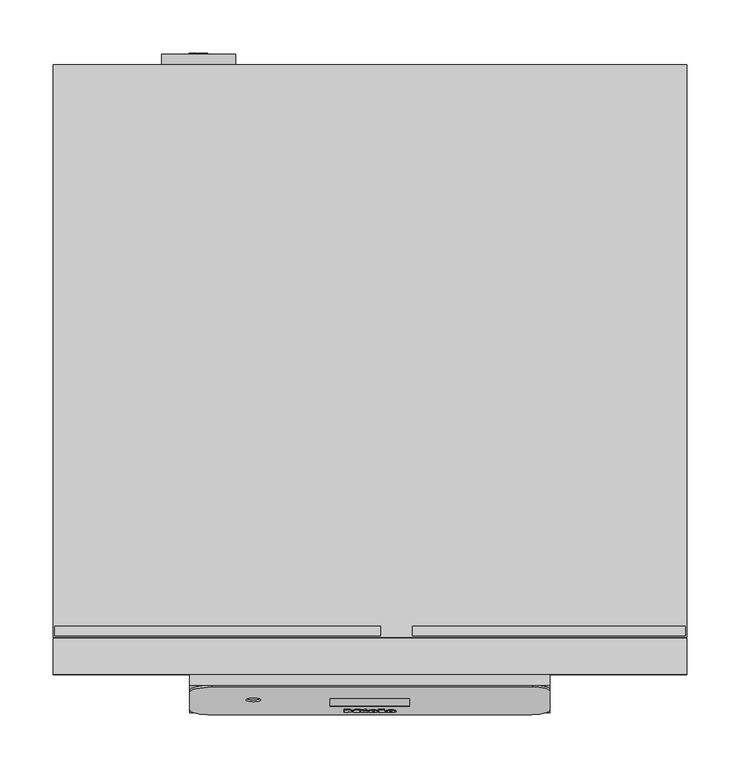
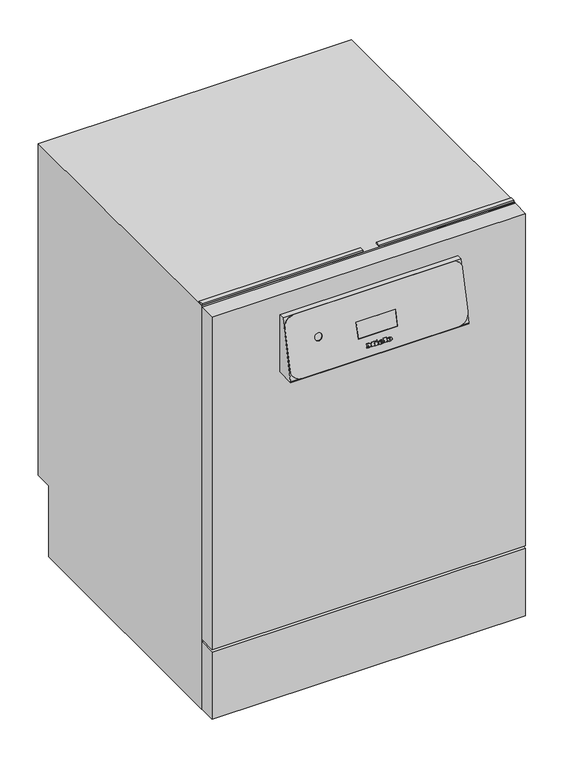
"""IFC4 building model written with IfcOpenShell, lengths in millimetres: proxy geometry, 12065630_NWE_PFD401UDOS_SST : 61040185_NWE_12065630_PFD401UDOS_SST."""

from ifc_helpers import new_model, si_unit, point, frame, frame_2d, origin, origin_with_axes, place, context, project, spatial, polyline, circle_curve, ellipse_curve, trimmed, segment, composite_curve, outline, extrude, source, transform, mapped, element, save
from ifc_brep_helpers import plane_surface, cylinder_surface, revolved_surface, extruded_surface, advanced_brep


def specialty_equipment_58bb6e74(model_context):
    return source(origin(), model_context, "Body", "SolidModel", [
        advanced_brep(
        [(19.2098411, -35.3170778, 679.7116041), (19.2098411, -35.1353173, 680.4988951), (24.5618411, -35.1353173, 680.4988951), (15.2498411, -35.1353173, 680.4988951), (17.4498411, -35.743585, 677.8641985), (24.4258411, -35.3170778, 679.7116041), (22.0098411, -35.3170778, 679.7116041), (20.1058411, -35.5186339, 678.8385685), (19.2098411, -34.9049675, 681.4966501), (19.2098411, -34.7088101, 682.3463008), (20.5778411, -34.7088101, 682.3463008), (20.5778411, -34.9049675, 681.4966501), (19.2098411, -34.3427077, 679.4866531), (20.1058411, -34.5442639, 678.6136175), (22.0098411, -34.3427077, 679.4866531), (24.4258411, -34.3427077, 679.4866531), (17.4498411, -34.7692149, 677.6392474), (15.2498411, -34.1609473, 680.2739441), (24.5618411, -34.1609473, 680.2739441), (19.2098411, -34.1609473, 680.2739441), (19.2098411, -33.9305974, 681.271699), (20.5778411, -33.9305974, 681.271699), (20.5778411, -33.7344401, 682.1213497), (19.2098411, -33.7344401, 682.1213497)],
        [
            (0, 1),
            (1, 2),
            (2, 3, ellipse_curve(frame((19.9058411, -35.1353173, 680.4988951), z_axis=(0.0, -0.9743700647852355, 0.22495105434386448), x_axis=(-1.0, 0.0, 0.0)), 4.656, 3.848)),
            (3, 4, circle_curve(frame((18.3458847, -35.0741307, 680.7639238), z_axis=(0.0, -0.9743700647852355, 0.22495105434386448), x_axis=(0.0, -0.22495105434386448, -0.9743700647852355)), 3.1079688)),
            (4, 5, circle_curve(frame((19.8126347, -34.599034, 682.8217934), z_axis=(0.0, -0.9743700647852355, 0.22495105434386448), x_axis=(0.0, -0.22495105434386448, -0.9743700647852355)), 5.6098607)),
            (5, 6),
            (6, 7, circle_curve(frame((20.4968999, -35.1497142, 680.4365354), z_axis=(0.0, 0.9743700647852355, -0.22495105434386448), x_axis=(0.0, -0.22495105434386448, -0.9743700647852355)), 1.6859795)),
            (7, 0, circle_curve(frame((20.1058411, -35.3170778, 679.7116041), z_axis=(0.0, 0.9743700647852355, -0.22495105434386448), x_axis=(0.0, -0.22495105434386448, -0.9743700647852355)), 0.896)),
            (8, 9),
            (9, 10, circle_curve(frame((19.8938411, -34.7088101, 682.3463008), z_axis=(0.0, 0.9743700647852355, -0.22495105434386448), x_axis=(0.0, -0.22495105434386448, -0.9743700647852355)), 0.684)),
            (10, 11),
            (11, 8),
            (12, 13, circle_curve(frame((20.1058411, -34.3427077, 679.4866531), z_axis=(0.0, -0.9743700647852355, 0.22495105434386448), x_axis=(0.0, -0.22495105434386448, -0.9743700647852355)), 0.896)),
            (13, 14, circle_curve(frame((20.4968999, -34.1753441, 680.2115844), z_axis=(0.0, -0.9743700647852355, 0.22495105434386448), x_axis=(0.0, -0.22495105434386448, -0.9743700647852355)), 1.6859795)),
            (14, 15),
            (15, 16, circle_curve(frame((19.8126347, -33.624664, 682.5968423), z_axis=(0.0, 0.9743700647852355, -0.22495105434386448), x_axis=(0.0, -0.22495105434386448, -0.9743700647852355)), 5.6098607)),
            (16, 17, circle_curve(frame((18.3458847, -34.0997606, 680.5389727), z_axis=(0.0, 0.9743700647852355, -0.22495105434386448), x_axis=(0.0, -0.22495105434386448, -0.9743700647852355)), 3.1079688)),
            (17, 18, ellipse_curve(frame((19.9058411, -34.1609473, 680.2739441), z_axis=(0.0, 0.9743700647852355, -0.22495105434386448), x_axis=(-1.0, 0.0, 0.0)), 4.656, 3.848)),
            (18, 19),
            (19, 12),
            (20, 21),
            (21, 22),
            (22, 23, circle_curve(frame((19.8938411, -33.7344401, 682.1213497), z_axis=(0.0, -0.9743700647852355, 0.22495105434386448), x_axis=(0.0, -0.22495105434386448, -0.9743700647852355)), 0.684)),
            (23, 20),
            (0, 12),
            (19, 1),
            (18, 2),
            (5, 15),
            (14, 6),
            (17, 3),
            (13, 7),
            (16, 4),
            (8, 20),
            (23, 9),
            (22, 10),
            (21, 11),
        ],
        [
            plane_surface(frame((19.2098411, -35.1353173, 680.4988951), z_axis=(0.0, -0.9743700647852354, 0.22495105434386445), x_axis=(0.0, 0.22495105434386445, 0.9743700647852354))),
            plane_surface(frame((19.2098411, -34.1609473, 680.2739441), z_axis=(0.0, 0.9743700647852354, -0.22495105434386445), x_axis=(0.0, -0.22495105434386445, -0.9743700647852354))),
            plane_surface(frame((19.2098411, -35.3170778, 679.7116041), z_axis=(1.0, 0.0, 0.0), x_axis=(0.0, 0.9743700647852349, -0.22495105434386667))),
            plane_surface(frame((19.2098411, -35.1353173, 680.4988951), z_axis=(0.0, -0.22495105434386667, -0.9743700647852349), x_axis=(0.0, 0.9743700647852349, -0.22495105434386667))),
            plane_surface(frame((24.4258411, -35.3170778, 679.7116041), z_axis=(0.0, 0.22495105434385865, 0.9743700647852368), x_axis=(0.0, 0.9743700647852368, -0.22495105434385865))),
            extruded_surface(trimmed(ellipse_curve(frame((19.9058411, -33.1865772, 680.048993), z_axis=(0.0, -0.9743700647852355, 0.22495105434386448), x_axis=(-1.0, 0.0, 0.0)), 4.656, 3.848), [point((24.5618411, -33.1865772, 680.048993))], [point((15.2498411, -33.1865772, 680.048993))], True, "CARTESIAN"), (0.0, -0.9743700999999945, 0.2249510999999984), 1.0000000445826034),
            revolved_surface(polyline([(20.4968999, -34.55460696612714, 678.5688164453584), (20.4968999, -35.52897707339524, 678.7937675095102)]), (20.4968999, -34.1753441, 680.2115844), (0.0, 0.9743700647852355, -0.22495105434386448)),
            revolved_surface(polyline([(20.1058411, -34.544263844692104, 678.6136175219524), (20.1058411, -35.51863393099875, 678.8385685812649)]), (20.1058411, -34.3427077, 679.4866531), (0.0, 0.9743700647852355, -0.22495105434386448)),
            cylinder_surface(frame((18.3458847, -34.0997606, 680.5389727), z_axis=(0.0, -0.9743700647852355, 0.22495105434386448), x_axis=(0.0, -0.22495105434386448, -0.9743700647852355)), 3.1079688),
            cylinder_surface(frame((19.8126347, -33.624664, 682.5968423), z_axis=(0.0, -0.9743700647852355, 0.22495105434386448), x_axis=(0.0, -0.22495105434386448, -0.9743700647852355)), 5.6098607),
            plane_surface(frame((19.2098411, -34.9049675, 681.4966501), z_axis=(1.0, 0.0, 0.0), x_axis=(0.0, 0.9743700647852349, -0.22495105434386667))),
            revolved_surface(polyline([(19.8938411, -33.8883066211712, 681.4548805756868), (19.8938411, -34.8626766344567, 681.6798316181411)]), (19.8938411, -33.7344401, 682.1213497), (0.0, 0.9743700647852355, -0.22495105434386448)),
            plane_surface(frame((20.5778411, -34.7088101, 682.3463008), z_axis=(-1.0, 0.0, 0.0), x_axis=(0.0, 0.9743700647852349, -0.22495105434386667))),
            plane_surface(frame((20.5778411, -34.9049675, 681.4966501), z_axis=(0.0, 0.22495105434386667, 0.9743700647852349), x_axis=(0.0, 0.9743700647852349, -0.22495105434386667))),
        ],
        [
            (0, [[1, 2, 3, 4, 5, 6, 7, 8], [9, 10, 11, 12]]),
            (1, [[13, 14, 15, 16, 17, 18, 19, 20], [21, 22, 23, 24]]),
            (2, [[-1, 25, -20, 26]]),
            (3, [[-2, -26, -19, 27]]),
            (4, [[-6, 28, -15, 29]]),
            (5, [[-3, -27, -18, 30]]),
            (6, [[-7, -29, -14, 31]]),
            (7, [[-8, -31, -13, -25]]),
            (8, [[-4, -30, -17, 32]]),
            (9, [[-5, -32, -16, -28]]),
            (10, [[-9, 33, -24, 34]]),
            (11, [[-10, -34, -23, 35]]),
            (12, [[-11, -35, -22, 36]]),
            (13, [[-12, -36, -21, -33]]),
        ],
    ),
        advanced_brep(
        [(2.5138411, -35.3170778, 679.7116041), (2.5138411, -35.1353173, 680.4988951), (7.8658411, -35.1353173, 680.4988951), (-1.4461589, -35.1353173, 680.4988951), (0.7538411, -35.743585, 677.8641985), (7.7298411, -35.3170778, 679.7116041), (5.3138411, -35.3170778, 679.7116041), (3.4098411, -35.5186339, 678.8385685), (2.5138411, -34.9049675, 681.4966501), (2.5138411, -34.7088101, 682.3463008), (3.8818411, -34.7088101, 682.3463008), (3.8818411, -34.9049675, 681.4966501), (2.5138411, -34.3427077, 679.4866531), (3.4098411, -34.5442639, 678.6136175), (5.3138411, -34.3427077, 679.4866531), (7.7298411, -34.3427077, 679.4866531), (0.7538411, -34.7692149, 677.6392474), (-1.4461589, -34.1609473, 680.2739441), (7.8658411, -34.1609473, 680.2739441), (2.5138411, -34.1609473, 680.2739441), (2.5138411, -33.9305974, 681.271699), (3.8818411, -33.9305974, 681.271699), (3.8818411, -33.7344401, 682.1213497), (2.5138411, -33.7344401, 682.1213497)],
        [
            (0, 1),
            (1, 2),
            (2, 3, ellipse_curve(frame((3.2098411, -35.1353173, 680.4988951), z_axis=(0.0, -0.9743700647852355, 0.22495105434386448), x_axis=(-1.0, 0.0, 0.0)), 4.656, 3.848)),
            (3, 4, circle_curve(frame((1.6498847, -35.0741307, 680.7639238), z_axis=(0.0, -0.9743700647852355, 0.22495105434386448), x_axis=(0.0, -0.22495105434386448, -0.9743700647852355)), 3.1079688)),
            (4, 5, circle_curve(frame((3.1166347, -34.599034, 682.8217934), z_axis=(0.0, -0.9743700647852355, 0.22495105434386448), x_axis=(0.0, -0.22495105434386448, -0.9743700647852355)), 5.6098607)),
            (5, 6),
            (6, 7, circle_curve(frame((3.8008999, -35.1497142, 680.4365354), z_axis=(0.0, 0.9743700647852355, -0.22495105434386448), x_axis=(0.0, -0.22495105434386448, -0.9743700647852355)), 1.6859795)),
            (7, 0, circle_curve(frame((3.4098411, -35.3170778, 679.7116041), z_axis=(0.0, 0.9743700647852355, -0.22495105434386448), x_axis=(0.0, -0.22495105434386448, -0.9743700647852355)), 0.896)),
            (8, 9),
            (9, 10, circle_curve(frame((3.1978411, -34.7088101, 682.3463008), z_axis=(0.0, 0.9743700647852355, -0.22495105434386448), x_axis=(0.0, -0.22495105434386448, -0.9743700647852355)), 0.684)),
            (10, 11),
            (11, 8),
            (12, 13, circle_curve(frame((3.4098411, -34.3427077, 679.4866531), z_axis=(0.0, -0.9743700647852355, 0.22495105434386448), x_axis=(0.0, -0.22495105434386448, -0.9743700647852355)), 0.896)),
            (13, 14, circle_curve(frame((3.8008999, -34.1753441, 680.2115844), z_axis=(0.0, -0.9743700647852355, 0.22495105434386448), x_axis=(0.0, -0.22495105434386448, -0.9743700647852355)), 1.6859795)),
            (14, 15),
            (15, 16, circle_curve(frame((3.1166347, -33.624664, 682.5968423), z_axis=(0.0, 0.9743700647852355, -0.22495105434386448), x_axis=(0.0, -0.22495105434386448, -0.9743700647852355)), 5.6098607)),
            (16, 17, circle_curve(frame((1.6498847, -34.0997606, 680.5389727), z_axis=(0.0, 0.9743700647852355, -0.22495105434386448), x_axis=(0.0, -0.22495105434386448, -0.9743700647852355)), 3.1079688)),
            (17, 18, ellipse_curve(frame((3.2098411, -34.1609473, 680.2739441), z_axis=(0.0, 0.9743700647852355, -0.22495105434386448), x_axis=(-1.0, 0.0, 0.0)), 4.656, 3.848)),
            (18, 19),
            (19, 12),
            (20, 21),
            (21, 22),
            (22, 23, circle_curve(frame((3.1978411, -33.7344401, 682.1213497), z_axis=(0.0, -0.9743700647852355, 0.22495105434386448), x_axis=(0.0, -0.22495105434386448, -0.9743700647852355)), 0.684)),
            (23, 20),
            (0, 12),
            (19, 1),
            (18, 2),
            (5, 15),
            (14, 6),
            (17, 3),
            (13, 7),
            (16, 4),
            (8, 20),
            (23, 9),
            (22, 10),
            (21, 11),
        ],
        [
            plane_surface(frame((2.5138411, -35.1353173, 680.4988951), z_axis=(0.0, -0.9743700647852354, 0.22495105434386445), x_axis=(0.0, 0.22495105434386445, 0.9743700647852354))),
            plane_surface(frame((2.5138411, -34.1609473, 680.2739441), z_axis=(0.0, 0.9743700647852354, -0.22495105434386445), x_axis=(0.0, -0.22495105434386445, -0.9743700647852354))),
            plane_surface(frame((2.5138411, -35.3170778, 679.7116041), z_axis=(1.0000000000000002, 0.0, 0.0), x_axis=(0.0, 0.9743700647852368, -0.22495105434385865))),
            plane_surface(frame((2.5138411, -35.1353173, 680.4988951), z_axis=(0.0, -0.22495105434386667, -0.9743700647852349), x_axis=(0.0, 0.9743700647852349, -0.22495105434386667))),
            plane_surface(frame((7.7298411, -35.3170778, 679.7116041), z_axis=(0.0, 0.22495105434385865, 0.9743700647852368), x_axis=(0.0, 0.9743700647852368, -0.22495105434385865))),
            extruded_surface(trimmed(ellipse_curve(frame((3.2098411, -33.1865772, 680.048993), z_axis=(0.0, -0.9743700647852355, 0.22495105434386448), x_axis=(-1.0, 0.0, 0.0)), 4.656, 3.848), [point((7.8658411, -33.1865772, 680.048993))], [point((-1.4461589, -33.1865772, 680.048993))], True, "CARTESIAN"), (0.0, -0.9743700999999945, 0.2249510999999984), 1.0000000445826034),
            revolved_surface(polyline([(3.8008999, -34.55460696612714, 678.5688164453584), (3.8008999, -35.52897707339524, 678.7937675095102)]), (3.8008999, -34.1753441, 680.2115844), (0.0, 0.9743700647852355, -0.22495105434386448)),
            revolved_surface(polyline([(3.4098411, -34.544263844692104, 678.6136175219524), (3.4098411, -35.51863393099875, 678.8385685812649)]), (3.4098411, -34.3427077, 679.4866531), (0.0, 0.9743700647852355, -0.22495105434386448)),
            cylinder_surface(frame((1.6498847, -34.0997606, 680.5389727), z_axis=(0.0, -0.9743700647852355, 0.22495105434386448), x_axis=(0.0, -0.22495105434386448, -0.9743700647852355)), 3.1079688),
            cylinder_surface(frame((3.1166347, -33.624664, 682.5968423), z_axis=(0.0, -0.9743700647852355, 0.22495105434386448), x_axis=(0.0, -0.22495105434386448, -0.9743700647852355)), 5.6098607),
            plane_surface(frame((2.5138411, -34.9049675, 681.4966501), z_axis=(1.0, 0.0, 0.0), x_axis=(0.0, 0.9743700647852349, -0.22495105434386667))),
            revolved_surface(polyline([(3.1978411, -33.8883066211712, 681.4548805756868), (3.1978411, -34.8626766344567, 681.6798316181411)]), (3.1978411, -33.7344401, 682.1213497), (0.0, 0.9743700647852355, -0.22495105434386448)),
            plane_surface(frame((3.8818411, -34.7088101, 682.3463008), z_axis=(-1.0, 0.0, 0.0), x_axis=(0.0, 0.9743700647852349, -0.22495105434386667))),
            plane_surface(frame((3.8818411, -34.9049675, 681.4966501), z_axis=(0.0, 0.22495105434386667, 0.9743700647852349), x_axis=(0.0, 0.9743700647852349, -0.22495105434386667))),
        ],
        [
            (0, [[1, 2, 3, 4, 5, 6, 7, 8], [9, 10, 11, 12]]),
            (1, [[13, 14, 15, 16, 17, 18, 19, 20], [21, 22, 23, 24]]),
            (2, [[-1, 25, -20, 26]]),
            (3, [[-2, -26, -19, 27]]),
            (4, [[-6, 28, -15, 29]]),
            (5, [[-3, -27, -18, 30]]),
            (6, [[-7, -29, -14, 31]]),
            (7, [[-8, -31, -13, -25]]),
            (8, [[-4, -30, -17, 32]]),
            (9, [[-5, -32, -16, -28]]),
            (10, [[-9, 33, -24, 34]]),
            (11, [[-10, -34, -23, 35]]),
            (12, [[-11, -35, -22, 36]]),
            (13, [[-12, -36, -21, -33]]),
        ],
    ),
        extrude(outline(polyline([(0.0, 0.0), (-0.0109087, -2.9993294), (-1.4390415, -2.9920868), (-1.4315307, 0.0), (0.0, 0.0)])), frame((-6.2301589, -33.0757834, 684.9743053), z_axis=(0.0, -0.9743700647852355, 0.2249510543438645), x_axis=(-0.42472021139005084, 0.20365373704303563, 0.8821212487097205)), (0.0, 0.0, 1.0), 1.0),
        extrude(outline(polyline([(-0.4933908, 2.4141097), (-2.7800844, -2.4601583), (-7.0459742, -0.4588767), (-7.4401146, -1.2990179), (-8.6568709, -0.728194), (-5.9760369, 4.9862153), (-4.7592806, 4.4153913), (-5.1636142, 3.5535222), (-2.1941493, 2.16044), (-1.7898157, 3.022309), (-0.4933908, 2.4141097)])), frame((-6.2301589, -33.0757834, 684.9743053), z_axis=(0.0, -0.9743700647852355, 0.2249510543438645), x_axis=(-0.42472021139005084, 0.20365373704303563, 0.8821212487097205)), (0.0, 0.0, 1.0), 1.0),
        extrude(outline(polyline([(0.0, 0.0), (0.0, -1.3039999), (-5.504, -1.3039999), (-5.504, 5.352), (-6.488, 5.352), (-6.488, 6.696), (0.0, 6.696), (0.0, 5.352), (-0.96, 5.352), (-0.96, 0.0), (0.0, 0.0)])), frame((8.3138411, -33.2629427, 684.1636294), z_axis=(0.0, -0.9743700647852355, 0.22495105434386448), x_axis=(-1.0, 0.0, 0.0)), (0.0, 0.0, 1.0), 1.0),
        extrude(outline(polyline([(0.0, 0.0), (0.0, -1.3039999), (-5.576, -1.3039999), (-7.92, 1.6960001), (-10.256, -1.3039999), (-15.128, -1.3039999), (-15.128, 0.0), (-14.112, 0.0), (-14.112, 5.352), (-15.128, 5.352), (-15.128, 6.696), (-8.744, 6.696), (-8.744, 5.352), (-9.728, 5.352), (-9.728, 1.8807777), (-6.136, 6.696), (-2.56, 1.9488752), (-2.56, 5.352), (-3.52, 5.352), (-3.52, 6.696), (0.0, 6.696), (0.0, 5.352), (-0.968, 5.352), (-0.968, 0.0), (0.0, 0.0)])), frame((-24.1501589, -33.2629427, 684.1636294), z_axis=(0.0, -0.9743700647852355, 0.22495105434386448), x_axis=(-1.0, 0.0, 0.0)), (0.0, 0.0, 1.0), 1.0),
        extrude(outline(polyline([(-0.1038681, 775.5857792), (-0.1038681, 660.0), (-36.1981904, 660.0), (-36.1981904, 662.5588517), (-10.1038681, 775.5857792), (-0.1038681, 775.5857792)])), frame((-169.8831565, 0.0, 0.0), z_axis=(1.0, 0.0, 0.0), x_axis=(0.0, 1.0, 0.0)), (0.0, 0.0, 1.0), 339.766313),
        extrude(outline(polyline([(299.0, 34.0), (299.0, 0.0), (-299.0, 0.0), (-299.0, 34.0), (299.0, 34.0)])), frame((0.0, 0.0, 4.5), z_axis=(0.0, 0.0, 1.0), x_axis=(1.0, 0.0, 0.0)), (0.0, 0.0, 1.0), 135.5),
        extrude(outline(polyline([(299.0, 34.0), (299.0, 0.0), (-299.0, 0.0), (-299.0, 34.0), (299.0, 34.0)])), frame((0.0, 0.0, 145.0), z_axis=(0.0, 0.0, 1.0), x_axis=(1.0, 0.0, 0.0)), (0.0, 0.0, 1.0), 670.0),
        advanced_brep(
        [(153.3281651, -12.0526082, 776.0356813), (-148.8831565, -12.0526082, 776.0356813), (-169.8831565, -16.7765804, 755.57391), (-169.8831565, -33.4229584, 683.4705252), (-148.8831565, -38.1469305, 663.0087538), (148.8831565, -38.1469305, 663.0087538), (169.8831565, -33.4229584, 683.4705252), (169.8831565, -15.776671, 759.9049933), (-102.8831565, -24.0088923, 724.2473253), (-116.8831565, -24.0088923, 724.2473253), (37.5, -23.1425191, 728.0), (37.5, -30.0685648, 698.0), (-37.5, -30.0685648, 698.0), (-37.5, -23.1425191, 728.0), (153.3281651, -10.1038681, 775.5857792), (169.8831565, -13.8279308, 759.4550912), (169.8831565, -31.4742182, 683.0206231), (148.8831565, -36.1981904, 662.5588517), (-148.8831565, -36.1981904, 662.5588517), (-169.8831565, -31.4742182, 683.0206231), (-169.8831565, -14.8278402, 755.1240079), (-148.8831565, -10.1038681, 775.5857792), (37.5, -28.0159566, 698.0), (37.5, -21.0899109, 728.0), (-37.5, -21.0899109, 728.0), (-37.5, -28.0159566, 698.0), (-116.8831565, -22.4281396, 723.8823798), (-102.8831565, -22.4281396, 723.8823798)],
        [
            (0, 1),
            (1, 2, circle_curve(frame((-148.8831565, -16.7765804, 755.57391), z_axis=(0.0, -0.9743700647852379, 0.22495105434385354), x_axis=(1.0, 0.0, 0.0)), 21.0)),
            (2, 3),
            (3, 4, circle_curve(frame((-148.8831565, -33.4229584, 683.4705252), z_axis=(0.0, -0.9743700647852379, 0.22495105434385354), x_axis=(1.0, 0.0, 0.0)), 21.0)),
            (4, 5),
            (5, 6, circle_curve(frame((148.8831565, -33.4229584, 683.4705252), z_axis=(0.0, -0.9743700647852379, 0.22495105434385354), x_axis=(1.0, 0.0, 0.0)), 21.0)),
            (6, 7),
            (7, 0, circle_curve(frame((153.3281651, -15.776671, 759.9049933), z_axis=(0.0, -0.9743700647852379, 0.22495105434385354), x_axis=(1.0, 0.0, 0.0)), 16.5549913)),
            (8, 9, circle_curve(frame((-109.8831565, -24.0088923, 724.2473253), z_axis=(0.0, 0.9743700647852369, -0.22495105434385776), x_axis=(1.0, 0.0, 0.0)), 7.0)),
            (9, 8, circle_curve(frame((-109.8831565, -24.0088923, 724.2473253), z_axis=(0.0, 0.9743700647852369, -0.22495105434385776), x_axis=(1.0, 0.0, 0.0)), 7.0)),
            (10, 11),
            (11, 12),
            (12, 13),
            (13, 10),
            (14, 15, circle_curve(frame((153.3281651, -13.8279308, 759.4550912), z_axis=(0.0, 0.9743700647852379, -0.22495105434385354), x_axis=(1.0, 0.0, 0.0)), 16.5549913)),
            (15, 16),
            (16, 17, circle_curve(frame((148.8831565, -31.4742182, 683.0206231), z_axis=(0.0, 0.9743700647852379, -0.22495105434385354), x_axis=(1.0, 0.0, 0.0)), 21.0)),
            (17, 18),
            (18, 19, circle_curve(frame((-148.8831565, -31.4742182, 683.0206231), z_axis=(0.0, 0.9743700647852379, -0.22495105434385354), x_axis=(1.0, 0.0, 0.0)), 21.0)),
            (19, 20),
            (20, 21, circle_curve(frame((-148.8831565, -14.8278402, 755.1240079), z_axis=(0.0, 0.9743700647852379, -0.22495105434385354), x_axis=(1.0, 0.0, 0.0)), 21.0)),
            (21, 14),
            (22, 23),
            (23, 24),
            (24, 25),
            (25, 22),
            (0, 14),
            (21, 1),
            (20, 2),
            (19, 3),
            (18, 4),
            (17, 5),
            (16, 6),
            (15, 7),
            (10, 23),
            (22, 11),
            (12, 25),
            (24, 13),
            (26, 27, circle_curve(frame((-109.8831565, -22.4281396, 723.8823798), z_axis=(0.0, -0.9743700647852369, 0.22495105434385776), x_axis=(1.0, 0.0, 0.0)), 7.0)),
            (27, 26, circle_curve(frame((-109.8831565, -22.4281396, 723.8823798), z_axis=(0.0, -0.9743700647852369, 0.22495105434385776), x_axis=(1.0, 0.0, 0.0)), 7.0)),
            (26, 9),
            (8, 27),
        ],
        [
            plane_surface(frame((-166.8819453, -12.0526082, 776.0356813), z_axis=(0.0, -0.9743700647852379, 0.22495105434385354), x_axis=(-1.0, 0.0, 0.0))),
            plane_surface(frame((-166.8819453, -10.1038681, 775.5857792), z_axis=(0.0, 0.9743700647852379, -0.22495105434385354), x_axis=(1.0, 0.0, 0.0))),
            plane_surface(frame((153.3281651, -12.0526082, 776.0356813), z_axis=(0.0, 0.22495105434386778, 0.9743700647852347), x_axis=(0.0, 0.9743700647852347, -0.22495105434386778))),
            cylinder_surface(frame((-148.8831565, -14.8278402, 755.1240079), z_axis=(0.0, -0.9743700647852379, 0.22495105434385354), x_axis=(1.0, 0.0, 0.0)), 21.0),
            plane_surface(frame((-169.8831565, -16.7765804, 755.57391), z_axis=(-1.0, 0.0, 0.0), x_axis=(0.0, 0.9743700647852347, -0.22495105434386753))),
            cylinder_surface(frame((-148.8831565, -31.4742182, 683.0206231), z_axis=(0.0, -0.9743700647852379, 0.22495105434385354), x_axis=(1.0, 0.0, 0.0)), 21.0),
            plane_surface(frame((-148.8831565, -38.1469305, 663.0087538), z_axis=(0.0, -0.22495105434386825, -0.9743700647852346), x_axis=(0.0, 0.9743700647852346, -0.22495105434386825))),
            cylinder_surface(frame((148.8831565, -31.4742182, 683.0206231), z_axis=(0.0, -0.9743700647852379, 0.22495105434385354), x_axis=(1.0, 0.0, 0.0)), 21.0),
            plane_surface(frame((169.8831565, -33.4229584, 683.4705252), z_axis=(1.0000000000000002, 0.0, 0.0), x_axis=(0.0, 0.9743700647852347, -0.22495105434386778))),
            cylinder_surface(frame((153.3281651, -13.8279308, 759.4550912), z_axis=(0.0, -0.9743700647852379, 0.22495105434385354), x_axis=(1.0, 0.0, 0.0)), 16.5549913),
            plane_surface(frame((37.5, -23.1425191, 728.0), z_axis=(-1.0000000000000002, 0.0, 0.0), x_axis=(0.0, -0.22495105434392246, -0.974370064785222))),
            plane_surface(frame((-37.5, -23.1425191, 728.0), z_axis=(1.0000000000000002, 0.0, 0.0), x_axis=(0.0, 0.22495105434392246, 0.974370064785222))),
            plane_surface(frame((37.5, -30.0685648, 698.0), z_axis=(0.0, 0.0, 1.0), x_axis=(-1.0, 0.0, 0.0))),
            plane_surface(frame((37.5, -21.0899109, 728.0), z_axis=(0.0, 0.0, -1.0), x_axis=(-1.0, 0.0, 0.0))),
            plane_surface(frame((-102.8831565, -22.4281396, 723.8823798), z_axis=(0.0, -0.9743700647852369, 0.2249510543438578), x_axis=(0.0, -0.2249510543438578, -0.9743700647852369))),
            revolved_surface(polyline([(-102.8831565, -24.008892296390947, 724.2473253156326), (-102.8831565, -22.4281396, 723.8823798)]), (-109.8831565, -22.4281396, 723.8823798), (0.0, -0.9743700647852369, 0.22495105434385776)),
        ],
        [
            (0, [[1, 2, 3, 4, 5, 6, 7, 8], [9, 10], [11, 12, 13, 14]]),
            (1, [[15, 16, 17, 18, 19, 20, 21, 22], [23, 24, 25, 26]]),
            (2, [[-1, 27, -22, 28]]),
            (3, [[-2, -28, -21, 29]]),
            (4, [[-3, -29, -20, 30]]),
            (5, [[-4, -30, -19, 31]]),
            (6, [[-5, -31, -18, 32]]),
            (7, [[-6, -32, -17, 33]]),
            (8, [[-7, -33, -16, 34]]),
            (9, [[-8, -34, -15, -27]]),
            (10, [[35, -23, 36, -11]]),
            (11, [[37, -25, 38, -13]]),
            (12, [[-36, -26, -37, -12]]),
            (13, [[-35, -14, -38, -24]]),
            (14, [[39, 40]]),
            (15, [[-39, 41, -9, 42]]),
            (15, [[-40, -42, -10, -41]]),
        ],
    ),
        extrude(outline(polyline([(-23.1425191, 728.0), (-21.0899109, 728.0), (-28.0159566, 698.0), (-30.0685648, 698.0), (-23.1425191, 728.0)])), frame((-37.5, 0.0, 0.0), z_axis=(1.0, 0.0, 0.0), x_axis=(0.0, 1.0, 0.0)), (0.0, 0.0, 1.0), 75.0),
        extrude(outline(polyline([(297.9027562, 45.259625), (297.9027562, 36.259625), (40.425123, 36.259625), (40.425123, 45.259625), (297.9027562, 45.259625)])), frame((0.0, 0.0, 817.0), z_axis=(0.0, 0.0, 1.0), x_axis=(1.0, 0.0, 0.0)), (0.0, 0.0, 1.0), 3.0),
        extrude(outline(polyline([(10.1158911, 45.259625), (10.1158911, 36.259625), (-297.5390632, 36.259625), (-297.5390632, 45.259625), (10.1158911, 45.259625)])), frame((0.0, 0.0, 817.0), z_axis=(0.0, 0.0, 1.0), x_axis=(1.0, 0.0, 0.0)), (0.0, 0.0, 1.0), 3.0),
        extrude(outline(polyline([(35.0, 817.0), (575.0, 817.0), (575.0, 148.0), (541.0, 148.0), (541.0, 4.2000122), (35.0, 4.2000122), (35.0, 817.0)])), frame((-299.0, 0.0, 0.0), z_axis=(1.0, 0.0, 0.0), x_axis=(0.0, 1.0, 0.0)), (0.0, 0.0, 1.0), 598.0),
        extrude(outline(polyline([(-172.0947306, 541.0), (-252.9150967, 541.0), (-252.9150967, 546.8796322), (-172.0947306, 546.8796322), (-172.0947306, 541.0)])), frame((0.0, 0.0, 83.2113443), z_axis=(0.0, 0.0, 1.0), x_axis=(1.0, 0.0, 0.0)), (0.0, 0.0, 1.0), 9.5402229),
        extrude(outline(polyline([(-172.0947306, 541.0), (-252.9150967, 541.0), (-252.9150967, 546.8796322), (-172.0947306, 546.8796322), (-172.0947306, 541.0)])), frame((0.0, 0.0, 49.1113767), z_axis=(0.0, 0.0, 1.0), x_axis=(1.0, 0.0, 0.0)), (0.0, 0.0, 1.0), 11.5700235),
        extrude(outline(polyline([(-172.0947306, 541.0), (-252.9150967, 541.0), (-252.9150967, 546.8796322), (-172.0947306, 546.8796322), (-172.0947306, 541.0)])), frame((0.0, 0.0, 67.2113431), z_axis=(0.0, 0.0, 1.0), x_axis=(1.0, 0.0, 0.0)), (0.0, 0.0, 1.0), 9.5826234),
        extrude(outline(polyline([(70.6242327, 186.565003), (80.6698637, 186.565003), (80.6698637, 179.3447057), (79.4141598, 179.3447057), (79.4141598, 185.3092991), (76.4318631, 185.3092991), (76.4318631, 179.6586317), (75.1761592, 179.6586317), (75.1761592, 185.3092991), (71.8799366, 185.3092991), (71.8799366, 179.1877427), (70.6242327, 179.1877427), (70.6242327, 186.565003)])), frame((0.0, 571.0, 0.0), z_axis=(0.0, 1.0, 0.0), x_axis=(0.0, 0.0, 1.0)), (0.0, 0.0, 1.0), 1.0),
        extrude(outline(polyline([(70.6242327, 177.3041869), (80.6698637, 177.3041869), (80.6698637, 176.048483), (71.8799366, 176.048483), (71.8799366, 171.0256675), (70.6242327, 171.0256675), (70.6242327, 177.3041869)])), frame((0.0, 571.0, 0.0), z_axis=(0.0, 1.0, 0.0), x_axis=(0.0, 0.0, 1.0)), (0.0, 0.0, 1.0), 1.0),
        extrude(outline(polyline([(46.0, 96.7862239), (56.045631, 92.7763102), (56.045631, 91.7069998), (46.0, 87.6970861), (46.0, 89.0239138), (49.1392597, 90.1741582), (49.1392597, 94.3116044), (46.0, 95.4593962), (46.0, 96.7862239)]), holes=[polyline([(50.3949636, 93.8505256), (50.3949636, 90.6327844), (52.864678, 91.5377741), (54.7899271, 92.241655), (53.0805021, 92.8670544), (50.3949636, 93.8505256)])]), frame((0.0, 571.0, 0.0), z_axis=(0.0, 1.0, 0.0), x_axis=(0.0, 0.0, 1.0)), (0.0, 0.0, 1.0), 1.0),
        extrude(outline(polyline([(46.0, 84.5578264), (56.045631, 87.297321), (56.045631, 86.0023764), (49.4433755, 84.4131261), (47.4053092, 83.9226168), (49.207931, 83.3977718), (56.045631, 81.406304), (56.045631, 79.539916), (51.0890343, 78.0929135), (47.4053092, 77.0162455), (49.3845144, 76.5404514), (56.045631, 74.936486), (56.045631, 73.6415413), (46.0, 76.3834885), (46.0, 77.7250315), (53.7500474, 80.1334323), (54.8316204, 80.4694312), (53.5293182, 80.8471233), (46.0, 83.0421526), (46.0, 84.5578264)])), frame((0.0, 571.0, 0.0), z_axis=(0.0, 1.0, 0.0), x_axis=(0.0, 0.0, 1.0)), (0.0, 0.0, 1.0), 1.0),
        extrude(outline(composite_curve([segment(trimmed(circle_curve(frame_2d((51.0, 85.0998392)), 8.0), [point((51.0, 77.0998392))], [point((51.0, 93.0998392))], False, "CARTESIAN"), True, "CONTINUOUS"), segment(trimmed(circle_curve(frame_2d((51.0, 85.0998392)), 8.0), [point((51.0, 93.0998392))], [point((51.0, 77.0998392))], False, "CARTESIAN"), True, "CONTINUOUS")], self_intersect=False)), frame((0.0, 541.0, 0.0), z_axis=(0.0, 1.0, 0.0), x_axis=(0.0, 0.0, 1.0)), (0.0, 0.0, 1.0), 30.0),
        extrude(outline(polyline([(94.6239875, 133.557834), (104.6696185, 136.2973286), (104.6696185, 135.002384), (98.067363, 133.4131338), (96.0292967, 132.9226244), (97.8319185, 132.3977795), (104.6696185, 130.4063116), (104.6696185, 128.5399236), (99.7130218, 127.0929211), (96.0292967, 126.0162531), (98.0085019, 125.5404591), (104.6696185, 123.9364936), (104.6696185, 122.641549), (94.6239875, 125.3834961), (94.6239875, 126.7250391), (102.3740349, 129.1334399), (103.4556079, 129.4694388), (102.1533057, 129.847131), (94.6239875, 132.0421602), (94.6239875, 133.557834)])), frame((0.0, 571.0, 0.0), z_axis=(0.0, 1.0, 0.0), x_axis=(0.0, 0.0, 1.0)), (0.0, 0.0, 1.0), 1.0),
        extrude(outline(polyline([(94.6239875, 144.6163668), (104.6696185, 144.6163668), (104.6696185, 143.3606629), (99.7522625, 143.3606629), (104.6696185, 138.210315), (104.6696185, 136.4542916), (100.53953, 140.7781313), (94.6239875, 136.2973286), (94.6239875, 137.8326228), (99.6909489, 141.6684057), (98.0771732, 143.3606629), (94.6239875, 143.3606629), (94.6239875, 144.6163668)])), frame((0.0, 571.0, 0.0), z_axis=(0.0, 1.0, 0.0), x_axis=(0.0, 0.0, 1.0)), (0.0, 0.0, 1.0), 1.0),
        extrude(outline(polyline([(118.1398187, 18.2077062), (128.1854497, 18.2077062), (128.1854497, 14.7422578), (128.0407495, 12.9494462), (127.3221533, 11.4730132), (125.6053707, 10.283528), (123.2165903, 9.888668), (121.1895605, 10.1559956), (119.7266164, 10.8427087), (118.8154953, 11.7599611), (118.311497, 12.9604827), (118.1398187, 14.5754846), (118.1398187, 18.2077062)]), holes=[polyline([(119.3955226, 16.9520023), (119.3955226, 14.7299951), (119.5770111, 13.1137669), (120.0895933, 12.1817991), (121.3367133, 11.4178309), (123.2362106, 11.1443719), (125.6151809, 11.6802533), (126.728637, 12.9837819), (126.9297459, 14.7643307), (126.9297459, 16.9520023), (119.3955226, 16.9520023)])]), frame((0.0, 571.0, 0.0), z_axis=(0.0, 1.0, 0.0), x_axis=(0.0, 0.0, 1.0)), (0.0, 0.0, 1.0), 1.0),
        extrude(outline(polyline([(121.5930044, 8.6329642), (121.5930044, 7.3772603), (120.3360742, 6.9725901), (119.5414491, 5.9842138), (119.2385596, 4.4783502), (119.4678727, 3.1662377), (120.0981772, 2.3188828), (120.940627, 2.0405188), (121.7242156, 2.2489853), (122.2944327, 3.1024715), (122.7739056, 4.930845), (123.3931736, 6.8990137), (124.3275939, 7.9670977), (125.5759401, 8.3190382), (126.9971909, 7.8837112), (128.0002825, 6.6120657), (128.3424127, 4.7505828), (127.9843409, 2.7640201), (126.9321984, 1.4396449), (125.360116, 0.9417779), (125.360116, 2.1974818), (126.6501555, 2.9087203), (127.0867088, 4.7015319), (126.6550606, 6.4992486), (125.6127283, 7.0633343), (124.7420743, 6.6635692), (124.0406459, 4.6132402), (123.4103414, 2.391233), (122.3925346, 1.1759961), (120.9725101, 0.7848149), (119.4703253, 1.2348572), (118.3740369, 2.5298019), (117.9828557, 4.4292992), (118.4046938, 6.6721531), (119.6751129, 8.0909513), (121.5930044, 8.6329642)])), frame((0.0, 571.0, 0.0), z_axis=(0.0, 1.0, 0.0), x_axis=(0.0, 0.0, 1.0)), (0.0, 0.0, 1.0), 1.0),
        extrude(outline(composite_curve([segment(trimmed(circle_curve(frame_2d((126.8499756, 10.1811127)), 2.9851521), [point((126.8499756, 7.1959606))], [point((126.8499756, 13.1662647))], False, "CARTESIAN"), True, "CONTINUOUS"), segment(trimmed(circle_curve(frame_2d((126.8499756, 10.1811127)), 2.9851521), [point((126.8499756, 13.1662647))], [point((126.8499756, 7.1959606))], False, "CARTESIAN"), True, "CONTINUOUS")], self_intersect=False)), frame((0.0, 541.0, 0.0), z_axis=(0.0, 1.0, 0.0), x_axis=(0.0, 0.0, 1.0)), (0.0, 0.0, 1.0), 30.0),
        extrude(outline(composite_curve([segment(trimmed(circle_curve(frame_2d((117.0999756, 10.1811127)), 3.0), [point((117.0999756, 7.1811127))], [point((117.0999756, 13.1811127))], False, "CARTESIAN"), True, "CONTINUOUS"), segment(trimmed(circle_curve(frame_2d((117.0999756, 10.1811127)), 3.0), [point((117.0999756, 13.1811127))], [point((117.0999756, 7.1811127))], False, "CARTESIAN"), True, "CONTINUOUS")], self_intersect=False)), frame((0.0, 541.0, 0.0), z_axis=(0.0, 1.0, 0.0), x_axis=(0.0, 0.0, 1.0)), (0.0, 0.0, 1.0), 30.0),
        extrude(outline(composite_curve([segment(trimmed(circle_curve(frame_2d((107.3499443, 10.1811127)), 3.0), [point((107.3499443, 7.1811127))], [point((107.3499443, 13.1811127))], False, "CARTESIAN"), True, "CONTINUOUS"), segment(trimmed(circle_curve(frame_2d((107.3499443, 10.1811127)), 3.0), [point((107.3499443, 13.1811127))], [point((107.3499443, 7.1811127))], False, "CARTESIAN"), True, "CONTINUOUS")], self_intersect=False)), frame((0.0, 541.0, 0.0), z_axis=(0.0, 1.0, 0.0), x_axis=(0.0, 0.0, 1.0)), (0.0, 0.0, 1.0), 30.0),
        extrude(outline(composite_curve([segment(trimmed(circle_curve(frame_2d((136.5999756, 10.1811127)), 3.0), [point((136.5999756, 7.1811127))], [point((136.5999756, 13.1811127))], False, "CARTESIAN"), True, "CONTINUOUS"), segment(trimmed(circle_curve(frame_2d((136.5999756, 10.1811127)), 3.0), [point((136.5999756, 13.1811127))], [point((136.5999756, 7.1811127))], False, "CARTESIAN"), True, "CONTINUOUS")], self_intersect=False)), frame((0.0, 541.0, 0.0), z_axis=(0.0, 1.0, 0.0), x_axis=(0.0, 0.0, 1.0)), (0.0, 0.0, 1.0), 30.0),
        extrude(outline(polyline([(99.6239875, 19.6811122), (148.0, 19.6811122), (148.0, 1.1811127), (99.6239875, 1.1811127), (99.6239875, 19.6811122)]), holes=[polyline([(100.6239875, 18.6811122), (100.6239875, 2.1811127), (147.0, 2.1811127), (147.0, 18.6811122), (100.6239875, 18.6811122)])]), frame((0.0, 541.0, 0.0), z_axis=(0.0, 1.0, 0.0), x_axis=(0.0, 0.0, 1.0)), (0.0, 0.0, 1.0), 1.0),
        extrude(outline(polyline([(41.5900269, 145.1730949), (51.6356579, 147.9125895), (51.6356579, 146.6176449), (45.0334023, 145.0283946), (42.9953361, 144.5378853), (44.7979579, 144.0130403), (51.6356579, 142.0215725), (51.6356579, 140.1551845), (46.6790611, 138.708182), (42.9953361, 137.631514), (44.9745412, 137.1557199), (51.6356579, 135.5517544), (51.6356579, 134.2568098), (41.5900269, 136.998757), (41.5900269, 138.3403), (49.3400742, 140.7487008), (50.4216473, 141.0846996), (49.119345, 141.4623918), (41.5900269, 143.6574211), (41.5900269, 145.1730949)])), frame((0.0, 571.0, 0.0), z_axis=(0.0, 1.0, 0.0), x_axis=(0.0, 0.0, 1.0)), (0.0, 0.0, 1.0), 1.0),
        extrude(outline(polyline([(41.5900269, 131.2033893), (51.6356579, 133.9428838), (51.6356579, 132.6479392), (45.0334023, 131.058689), (42.9953361, 130.5681797), (44.7979579, 130.0433347), (51.6356579, 128.0518668), (51.6356579, 126.1854788), (46.6790611, 124.7384763), (42.9953361, 123.6618084), (44.9745412, 123.1860143), (51.6356579, 121.5820488), (51.6356579, 120.2871042), (41.5900269, 123.0290513), (41.5900269, 124.3705943), (49.3400742, 126.7789951), (50.4216473, 127.114994), (49.119345, 127.4926862), (41.5900269, 129.6877154), (41.5900269, 131.2033893)])), frame((0.0, 571.0, 0.0), z_axis=(0.0, 1.0, 0.0), x_axis=(0.0, 0.0, 1.0)), (0.0, 0.0, 1.0), 1.0),
        extrude(outline(composite_curve([segment(trimmed(circle_curve(frame_2d((46.5900269, 134.0998468)), 8.0), [point((46.5900269, 126.0998468))], [point((46.5900269, 142.0998468))], False, "CARTESIAN"), True, "CONTINUOUS"), segment(trimmed(circle_curve(frame_2d((46.5900269, 134.0998468)), 8.0), [point((46.5900269, 142.0998468))], [point((46.5900269, 126.0998468))], False, "CARTESIAN"), True, "CONTINUOUS")], self_intersect=False)), frame((0.0, 541.0, 0.0), z_axis=(0.0, 1.0, 0.0), x_axis=(0.0, 0.0, 1.0)), (0.0, 0.0, 1.0), 30.0),
        extrude(outline(polyline([(118.1398187, -7.1235653), (128.1854497, -7.1235653), (128.1854497, -10.5890137), (128.0407495, -12.3818253), (127.3221533, -13.8582584), (125.6053707, -15.0477435), (123.2165903, -15.4426035), (121.1895605, -15.1752759), (119.7266164, -14.4885629), (118.8154953, -13.5713104), (118.311497, -12.3707889), (118.1398187, -10.7557869), (118.1398187, -7.1235653)]), holes=[polyline([(119.3955226, -8.3792692), (119.3955226, -10.6012765), (119.5770111, -12.2175047), (120.0895933, -13.1494724), (121.3367133, -13.9134407), (123.2362106, -14.1868996), (125.6151809, -13.6510182), (126.728637, -12.3474897), (126.9297459, -10.5669408), (126.9297459, -8.3792692), (119.3955226, -8.3792692)])]), frame((0.0, 571.0, 0.0), z_axis=(0.0, 1.0, 0.0), x_axis=(0.0, 0.0, 1.0)), (0.0, 0.0, 1.0), 1.0),
        extrude(outline(polyline([(121.5930044, -16.6983074), (121.5930044, -17.9540113), (120.3360742, -18.3586815), (119.5414491, -19.3470578), (119.2385596, -20.8529214), (119.4678727, -22.1650338), (120.0981772, -23.0123887), (120.940627, -23.2907528), (121.7242156, -23.0822863), (122.2944327, -22.2288001), (122.7739056, -20.4004265), (123.3931736, -18.4322579), (124.3275939, -17.3641738), (125.5759401, -17.0122334), (126.9971909, -17.4475604), (128.0002825, -18.7192058), (128.3424127, -20.5806887), (127.9843409, -22.5672515), (126.9321984, -23.8916267), (125.360116, -24.3894936), (125.360116, -23.1337898), (126.6501555, -22.4225512), (127.0867088, -20.6297397), (126.6550606, -18.832023), (125.6127283, -18.2679372), (124.7420743, -18.6677023), (124.0406459, -20.7180313), (123.4103414, -22.9400386), (122.3925346, -24.1552754), (120.9725101, -24.5464566), (119.4703253, -24.0964143), (118.3740369, -22.8014697), (117.9828557, -20.9019723), (118.4046938, -18.6591184), (119.6751129, -17.2403202), (121.5930044, -16.6983074)])), frame((0.0, 571.0, 0.0), z_axis=(0.0, 1.0, 0.0), x_axis=(0.0, 0.0, 1.0)), (0.0, 0.0, 1.0), 1.0),
        extrude(outline(composite_curve([segment(trimmed(circle_curve(frame_2d((126.8499756, -15.1501589)), 2.9851521), [point((126.8499756, -18.135311))], [point((126.8499756, -12.1650068))], False, "CARTESIAN"), True, "CONTINUOUS"), segment(trimmed(circle_curve(frame_2d((126.8499756, -15.1501589)), 2.9851521), [point((126.8499756, -12.1650068))], [point((126.8499756, -18.135311))], False, "CARTESIAN"), True, "CONTINUOUS")], self_intersect=False)), frame((0.0, 541.0, 0.0), z_axis=(0.0, 1.0, 0.0), x_axis=(0.0, 0.0, 1.0)), (0.0, 0.0, 1.0), 30.0),
        extrude(outline(composite_curve([segment(trimmed(circle_curve(frame_2d((117.0999756, -15.1501589)), 3.0), [point((117.0999756, -18.1501589))], [point((117.0999756, -12.1501589))], False, "CARTESIAN"), True, "CONTINUOUS"), segment(trimmed(circle_curve(frame_2d((117.0999756, -15.1501589)), 3.0), [point((117.0999756, -12.1501589))], [point((117.0999756, -18.1501589))], False, "CARTESIAN"), True, "CONTINUOUS")], self_intersect=False)), frame((0.0, 541.0, 0.0), z_axis=(0.0, 1.0, 0.0), x_axis=(0.0, 0.0, 1.0)), (0.0, 0.0, 1.0), 30.0),
        extrude(outline(composite_curve([segment(trimmed(circle_curve(frame_2d((107.3499443, -15.1501589)), 3.0), [point((107.3499443, -18.1501589))], [point((107.3499443, -12.1501589))], False, "CARTESIAN"), True, "CONTINUOUS"), segment(trimmed(circle_curve(frame_2d((107.3499443, -15.1501589)), 3.0), [point((107.3499443, -12.1501589))], [point((107.3499443, -18.1501589))], False, "CARTESIAN"), True, "CONTINUOUS")], self_intersect=False)), frame((0.0, 541.0, 0.0), z_axis=(0.0, 1.0, 0.0), x_axis=(0.0, 0.0, 1.0)), (0.0, 0.0, 1.0), 30.0),
        extrude(outline(composite_curve([segment(trimmed(circle_curve(frame_2d((136.5999756, -15.1501589)), 3.0), [point((136.5999756, -18.1501589))], [point((136.5999756, -12.1501589))], False, "CARTESIAN"), True, "CONTINUOUS"), segment(trimmed(circle_curve(frame_2d((136.5999756, -15.1501589)), 3.0), [point((136.5999756, -12.1501589))], [point((136.5999756, -18.1501589))], False, "CARTESIAN"), True, "CONTINUOUS")], self_intersect=False)), frame((0.0, 541.0, 0.0), z_axis=(0.0, 1.0, 0.0), x_axis=(0.0, 0.0, 1.0)), (0.0, 0.0, 1.0), 30.0),
        extrude(outline(polyline([(99.6239875, -5.6501594), (148.0, -5.6501594), (148.0, -24.1501589), (99.6239875, -24.1501589), (99.6239875, -5.6501594)]), holes=[polyline([(100.6239875, -6.6501594), (100.6239875, -23.1501589), (147.0, -23.1501589), (147.0, -6.6501594), (100.6239875, -6.6501594)])]), frame((0.0, 541.0, 0.0), z_axis=(0.0, 1.0, 0.0), x_axis=(0.0, 0.0, 1.0)), (0.0, 0.0, 1.0), 1.0),
        extrude(outline(polyline([(294.0108337, -153.1353281), (304.0564648, -153.1353281), (304.0564648, -156.6007765), (303.9117645, -158.3935881), (303.1931683, -159.8700212), (301.4763857, -161.0595063), (299.0876053, -161.4543663), (297.0605755, -161.1870387), (295.5976314, -160.5003256), (294.6865103, -159.5830732), (294.182512, -158.3825516), (294.0108337, -156.7675497), (294.0108337, -153.1353281)]), holes=[polyline([(295.2665376, -154.391032), (295.2665376, -156.6130392), (295.4480261, -158.2292675), (295.9606083, -159.1612352), (297.2077283, -159.9252035), (299.1072256, -160.1986624), (301.4861959, -159.662781), (302.5996521, -158.3592524), (302.8007609, -156.5787036), (302.8007609, -154.391032), (295.2665376, -154.391032)])]), frame((0.0, 585.0, 0.0), z_axis=(0.0, 1.0, 0.0), x_axis=(0.0, 0.0, 1.0)), (0.0, 0.0, 1.0), 1.0),
        extrude(outline(polyline([(297.4640194, -162.7100702), (297.4640194, -163.965774), (296.2070893, -164.3704442), (295.4124641, -165.3588205), (295.1095746, -166.8646842), (295.3388877, -168.1767966), (295.9691922, -169.0241515), (296.811642, -169.3025155), (297.5952306, -169.094049), (298.1654477, -168.2405628), (298.6449206, -166.4121893), (299.2641886, -164.4440206), (300.1986089, -163.3759366), (301.4469551, -163.0239961), (302.8682059, -163.4593232), (303.8712975, -164.7309686), (304.2134277, -166.5924515), (303.8553559, -168.5790143), (302.8032134, -169.9033894), (301.231131, -170.4012564), (301.231131, -169.1455525), (302.5211706, -168.434314), (302.9577239, -166.6415024), (302.5260757, -164.8437857), (301.4837433, -164.2797), (300.6130893, -164.6794651), (299.9116609, -166.7297941), (299.2813565, -168.9518013), (298.2635496, -170.1670382), (296.8435251, -170.5582194), (295.3413403, -170.1081771), (294.2450519, -168.8132325), (293.8538708, -166.9137351), (294.2757088, -164.6708812), (295.5461279, -163.252083), (297.4640194, -162.7100702)])), frame((0.0, 585.0, 0.0), z_axis=(0.0, 1.0, 0.0), x_axis=(0.0, 0.0, 1.0)), (0.0, 0.0, 1.0), 1.0),
        extrude(outline(composite_curve([segment(trimmed(circle_curve(frame_2d((299.0108337, -161.6898108)), 35.0), [point((299.0108337, -196.6898108))], [point((299.0108337, -126.6898108))], False, "CARTESIAN"), True, "CONTINUOUS"), segment(trimmed(circle_curve(frame_2d((299.0108337, -161.6898108)), 35.0), [point((299.0108337, -126.6898108))], [point((299.0108337, -196.6898108))], False, "CARTESIAN"), True, "CONTINUOUS")], self_intersect=False)), frame((0.0, 575.0, 0.0), z_axis=(0.0, 1.0, 0.0), x_axis=(0.0, 0.0, 1.0)), (0.0, 0.0, 1.0), 10.0),
        extrude(outline(polyline([(134.5999756, -252.738078), (144.6456066, -252.738078), (144.6456066, -256.4610438), (144.5499573, -257.9620023), (144.0802946, -259.1821442), (143.1090861, -259.9730905), (141.7393388, -260.2723012), (139.5688351, -259.4641871), (138.6810132, -256.5468829), (138.6810132, -253.9937818), (134.5999756, -253.9937818), (134.5999756, -252.738078)]), holes=[polyline([(139.9367171, -253.9937818), (139.9367171, -256.6204593), (140.3977958, -258.4696795), (141.695193, -259.0165974), (142.7350728, -258.6940875), (143.3040636, -257.8467326), (143.3899027, -256.5910287), (143.3899027, -253.9937818), (139.9367171, -253.9937818)])]), frame((0.0, 571.0, 0.0), z_axis=(0.0, 1.0, 0.0), x_axis=(0.0, 0.0, 1.0)), (0.0, 0.0, 1.0), 1.0),
        extrude(outline(polyline([(134.5999756, -260.8290293), (144.6456066, -264.8389431), (144.6456066, -265.9082534), (134.5999756, -269.9181671), (134.5999756, -268.5913394), (137.7392353, -267.441095), (137.7392353, -263.3036489), (134.5999756, -262.155857), (134.5999756, -260.8290293)]), holes=[polyline([(138.9949392, -263.7647276), (138.9949392, -266.9824688), (141.4646536, -266.0774791), (143.3899027, -265.3735982), (141.6804777, -264.7481988), (138.9949392, -263.7647276)])]), frame((0.0, 571.0, 0.0), z_axis=(0.0, 1.0, 0.0), x_axis=(0.0, 0.0, 1.0)), (0.0, 0.0, 1.0), 1.0),
        extrude(outline(composite_curve([segment(trimmed(circle_curve(frame_2d((139.5999756, -260.9001532)), 8.0), [point((139.5999756, -268.9001532))], [point((139.5999756, -252.9001532))], False, "CARTESIAN"), True, "CONTINUOUS"), segment(trimmed(circle_curve(frame_2d((139.5999756, -260.9001532)), 8.0), [point((139.5999756, -252.9001532))], [point((139.5999756, -268.9001532))], False, "CARTESIAN"), True, "CONTINUOUS")], self_intersect=False)), frame((0.0, 541.0, 0.0), z_axis=(0.0, 1.0, 0.0), x_axis=(0.0, 0.0, 1.0)), (0.0, 0.0, 1.0), 30.0),
        extrude(outline(composite_curve([segment(trimmed(circle_curve(frame_2d((99.6239875, 134.0998468)), 8.0), [point((99.6239875, 126.0998468))], [point((99.6239875, 142.0998468))], False, "CARTESIAN"), True, "CONTINUOUS"), segment(trimmed(circle_curve(frame_2d((99.6239875, 134.0998468)), 8.0), [point((99.6239875, 142.0998468))], [point((99.6239875, 126.0998468))], False, "CARTESIAN"), True, "CONTINUOUS")], self_intersect=False)), frame((0.0, 541.0, 0.0), z_axis=(0.0, 1.0, 0.0), x_axis=(0.0, 0.0, 1.0)), (0.0, 0.0, 1.0), 30.0),
        extrude(outline(composite_curve([segment(trimmed(circle_curve(frame_2d((76.0, 179.0)), 8.0), [point((76.0, 171.0))], [point((76.0, 187.0))], False, "CARTESIAN"), True, "CONTINUOUS"), segment(trimmed(circle_curve(frame_2d((76.0, 179.0)), 8.0), [point((76.0, 187.0))], [point((76.0, 171.0))], False, "CARTESIAN"), True, "CONTINUOUS")], self_intersect=False)), frame((0.0, 541.0, 0.0), z_axis=(0.0, 1.0, 0.0), x_axis=(0.0, 0.0, 1.0)), (0.0, 0.0, 1.0), 30.0),
        extrude(outline(polyline([(-246.8707486, 541.0), (-246.8707486, 505.0), (-294.0966381, 505.0), (-294.0966381, 541.0), (-246.8707486, 541.0)])), origin_with_axes(), (0.0, 0.0, 1.0), 4.2000122),
        extrude(outline(polyline([(246.8707486, 541.0), (294.0966381, 541.0), (294.0966381, 505.0), (246.8707486, 505.0), (246.8707486, 541.0)])), origin_with_axes(), (0.0, 0.0, 1.0), 4.2000122),
        extrude(outline(composite_curve([segment(trimmed(circle_curve(frame_2d((-269.0, 35.0)), 16.477447), [point((-285.477447, 35.0))], [point((-252.522553, 35.0))], False, "CARTESIAN"), True, "CONTINUOUS"), segment(trimmed(circle_curve(frame_2d((-269.0, 35.0)), 16.477447), [point((-252.522553, 35.0))], [point((-285.477447, 35.0))], False, "CARTESIAN"), True, "CONTINUOUS")], self_intersect=False)), origin_with_axes(), (0.0, 0.0, 1.0), 4.2000122),
        extrude(outline(composite_curve([segment(trimmed(circle_curve(frame_2d((269.0, 35.0)), 16.477447), [point((252.522553, 35.0))], [point((285.477447, 35.0))], False, "CARTESIAN"), True, "CONTINUOUS"), segment(trimmed(circle_curve(frame_2d((269.0, 35.0)), 16.477447), [point((285.477447, 35.0))], [point((252.522553, 35.0))], False, "CARTESIAN"), True, "CONTINUOUS")], self_intersect=False)), origin_with_axes(), (0.0, 0.0, 1.0), 4.2000122),
    ])


if __name__ == "__main__":
    model = new_model("IFC4")
    model_context = context("Model", 3, world=origin())
    ifc_project = project(units=[si_unit("LENGTHUNIT", "METRE", prefix="MILLI")], contexts=[model_context])
    site = spatial("IfcSite", under=ifc_project)
    building = spatial("IfcBuilding", under=site)
    placement = place(None, origin())
    specialty_equipment_shape = specialty_equipment_58bb6e74(model_context)
    element("IfcBuildingElementProxy", 1, Name="12065630_NWE_PFD401UDOS_SST : 61040185_NWE_12065630_PFD401UDOS_SST", ObjectType="12065630_NWE_PFD401UDOS_SST : 61040185_NWE_12065630_PFD401UDOS_SST", at=placement, inside=building, context=model_context, shape_type="MappedRepresentation", body=[
        mapped(specialty_equipment_shape, transform((0.0, 0.0, 0.0), x_axis=(1.0, 0.0, 0.0), y_axis=(0.0, 1.0, 0.0), z_axis=(0.0, 0.0, 1.0))),
    ])
    save(model, "model.ifc")
